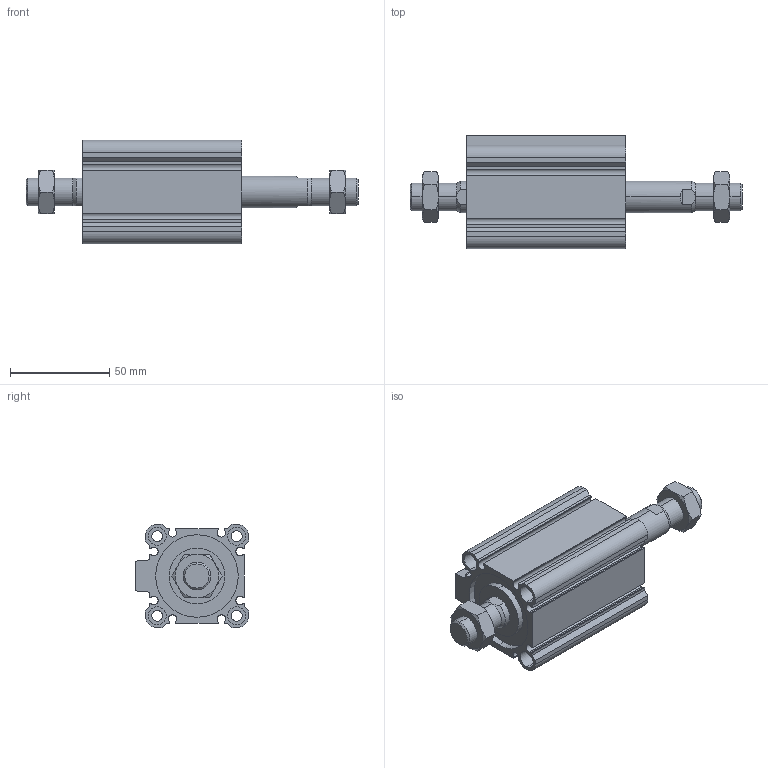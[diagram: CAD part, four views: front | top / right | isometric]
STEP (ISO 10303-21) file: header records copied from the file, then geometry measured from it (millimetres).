
FILE_DESCRIPTION (( 'STEP AP203' ), '1' );
FILE_NAME ('CCMB40-30M-P.STEP', '2020-08-10T11:39:16', ( '' ), ( '' ), 'SwSTEP 2.0', 'SolidWorks 2019', '' );
FILE_SCHEMA (( 'CONFIG_CONTROL_DESIGN' ));
Length unit declared in the file: millimetre
Products named in the file (1): CCMB40-30M-P
Bounding box: 167 x 57 x 52 mm (x, y, z)
Volume: 162933.6 mm3; surface area: 61073.6 mm2
Topology: 4 solids, 4 shells, 216 faces, 522 edges, 332 vertices
Faces by surface type: plane 94, cylinder 78, cone 44
Entity records: 7009 total; most frequent: CARTESIAN_POINT 1819, DIRECTION 1088, ORIENTED_EDGE 1044, EDGE_CURVE 522, AXIS2_PLACEMENT_3D 413, VERTEX_POINT 332, VECTOR 262, LINE 262
